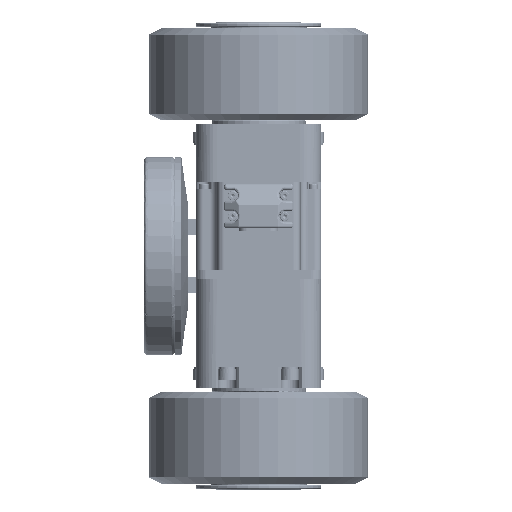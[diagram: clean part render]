
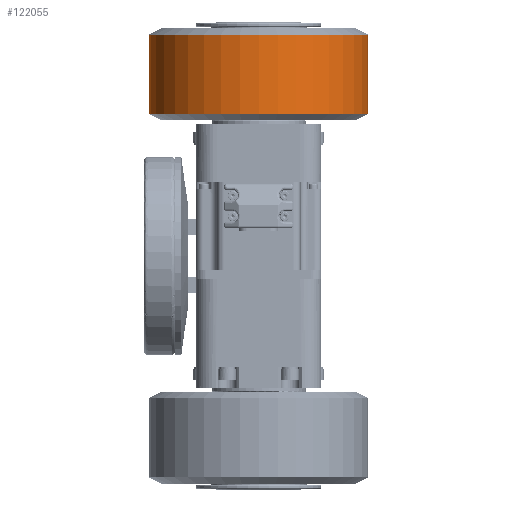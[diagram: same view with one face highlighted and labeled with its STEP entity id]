
A CAD part, left-side view. The second image highlights one B-rep face of the part: STEP entity #122055.
In plain terms, the highlighted cylindrical face has radius 52.5 mm (diameter 105 mm), a partial arc.
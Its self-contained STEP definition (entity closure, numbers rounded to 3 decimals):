
#1220 = EDGE_CURVE ( 'NONE', #105085, #105128, #114021, .T. ) ;
#1227 = EDGE_CURVE ( 'NONE', #105102, #105103, #114024, .T. ) ;
#12422 = LINE ( 'NONE', #89446, #12430 ) ;
#12428 = LINE ( 'NONE', #89458, #12434 ) ;
#12430 = VECTOR ( 'NONE', #89438, 1000. ) ;
#12434 = VECTOR ( 'NONE', #89462, 1000. ) ;
#12452 = CIRCLE ( 'NONE', #54754, 52.5 ) ;
#28877 = ORIENTED_EDGE ( 'NONE', *, *, #41921, .F. ) ;
#28881 = ORIENTED_EDGE ( 'NONE', *, *, #1220, .T. ) ;
#28884 = ORIENTED_EDGE ( 'NONE', *, *, #41937, .T. ) ;
#28887 = ORIENTED_EDGE ( 'NONE', *, *, #41923, .T. ) ;
#28889 = ORIENTED_EDGE ( 'NONE', *, *, #1227, .F. ) ;
#41921 = EDGE_CURVE ( 'NONE', #105085, #105102, #12422, .T. ) ;
#41923 = EDGE_CURVE ( 'NONE', #105124, #105103, #12428, .T. ) ;
#41937 = EDGE_CURVE ( 'NONE', #105128, #105124, #12452, .T. ) ;
#54754 = AXIS2_PLACEMENT_3D ( 'NONE', #89537, #89539, #89541 ) ;
#57092 = EDGE_LOOP ( 'NONE', ( #28877, #28881, #28884, #28887, #28889 ) ) ;
#57759 = AXIS2_PLACEMENT_3D ( 'NONE', #86293, #86298, #86302 ) ;
#57766 = AXIS2_PLACEMENT_3D ( 'NONE', #86334, #86340, #86346 ) ;
#86293 = CARTESIAN_POINT ( 'NONE',  ( -288., -90., 106. ) ) ;
#86298 = DIRECTION ( 'NONE',  ( 0., 0., -1. ) ) ;
#86302 = DIRECTION ( 'NONE',  ( 0., 1., 0. ) ) ;
#86334 = CARTESIAN_POINT ( 'NONE',  ( -288., -90., 68. ) ) ;
#86340 = DIRECTION ( 'NONE',  ( 0., 0., -1. ) ) ;
#86346 = DIRECTION ( 'NONE',  ( -0.695, 0.719, 0. ) ) ;
#89438 = DIRECTION ( 'NONE',  ( 0., 0., -1. ) ) ;
#89446 = CARTESIAN_POINT ( 'NONE',  ( -288., -142.5, 257.492 ) ) ;
#89458 = CARTESIAN_POINT ( 'NONE',  ( -288., -37.5, 257.492 ) ) ;
#89462 = DIRECTION ( 'NONE',  ( 0., 0., -1. ) ) ;
#89537 = CARTESIAN_POINT ( 'NONE',  ( -288., -90., 106. ) ) ;
#89539 = DIRECTION ( 'NONE',  ( 0., 0., -1. ) ) ;
#89541 = DIRECTION ( 'NONE',  ( 0., 1., 0. ) ) ;
#105085 = VERTEX_POINT ( 'NONE', #168840 ) ;
#105102 = VERTEX_POINT ( 'NONE', #168847 ) ;
#105103 = VERTEX_POINT ( 'NONE', #168860 ) ;
#105124 = VERTEX_POINT ( 'NONE', #168879 ) ;
#105128 = VERTEX_POINT ( 'NONE', #168882 ) ;
#114021 = CIRCLE ( 'NONE', #57759, 52.5 ) ;
#114024 = CIRCLE ( 'NONE', #57766, 52.5 ) ;
#122055 = ADVANCED_FACE ( 'NONE', ( #147556 ), #147543, .T. ) ;
#127032 = AXIS2_PLACEMENT_3D ( 'NONE', #150245, #150250, #150244 ) ;
#147543 = CYLINDRICAL_SURFACE ( 'NONE', #127032, 52.5 ) ;
#147556 = FACE_OUTER_BOUND ( 'NONE', #57092, .T. ) ;
#150244 = DIRECTION ( 'NONE',  ( 0., 1., 0. ) ) ;
#150245 = CARTESIAN_POINT ( 'NONE',  ( -288., -90., 257.492 ) ) ;
#150250 = DIRECTION ( 'NONE',  ( 0., 0., -1. ) ) ;
#168840 = CARTESIAN_POINT ( 'NONE',  ( -288., -142.5, 106. ) ) ;
#168847 = CARTESIAN_POINT ( 'NONE',  ( -288., -142.5, 68. ) ) ;
#168860 = CARTESIAN_POINT ( 'NONE',  ( -288., -37.5, 68. ) ) ;
#168879 = CARTESIAN_POINT ( 'NONE',  ( -288., -37.5, 106. ) ) ;
#168882 = CARTESIAN_POINT ( 'NONE',  ( -340.5, -90., 106. ) ) ;
